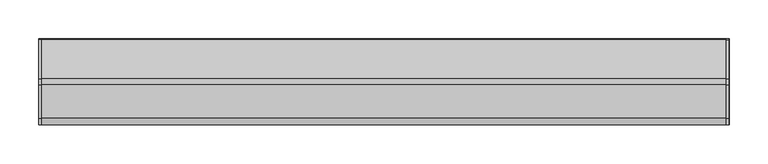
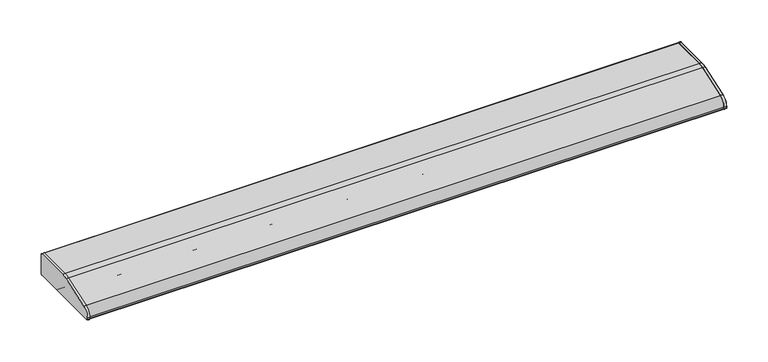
"""IFC4 building model written with IfcOpenShell, lengths in millimetres: light fixture geometry, HermanMiller_SupplementalProducts_G6136_UtilityTaskLight : AO Etho Canvas 42W."""

from ifc_helpers import new_model, si_unit, point, frame, frame_2d, origin, place, context, project, spatial, polyline, circle_curve, trimmed, segment, composite_curve, outline, extrude, source, transform, mapped, element, save


def light_fixture_24898320(model_context):
    return source(origin(), model_context, "Body", "SweptSolid", [
        extrude(outline(composite_curve([segment(polyline([(53.975, 1412.74546), (-53.975, 1412.74546)]), True, "CONTINUOUS"), segment(trimmed(circle_curve(frame_2d((-53.975, 1414.33296)), 1.5875), [point((-53.975, 1412.74546))], [point((-55.5625, 1414.33296))], False, "CARTESIAN"), True, "CONTINUOUS"), segment(polyline([(-55.5625, 1414.33296), (-55.5625, 1416.3740314)]), True, "CONTINUOUS"), segment(trimmed(circle_curve(frame_2d((-42.8625, 1416.3740314)), 12.7), [point((-55.5625, 1416.3740314))], [point((-46.9814189, 1428.3875449))], False, "CARTESIAN"), True, "CONTINUOUS"), segment(polyline([(-46.9814189, 1428.3875449), (-4.0045045, 1443.122487)]), True, "CONTINUOUS"), segment(trimmed(circle_curve(frame_2d((4.2333333, 1419.09546)), 25.4), [point((-4.0045045, 1443.122487))], [point((4.2333333, 1444.49546))], False, "CARTESIAN"), True, "CONTINUOUS"), segment(polyline([(4.2333333, 1444.49546), (53.975, 1444.49546)]), True, "CONTINUOUS"), segment(trimmed(circle_curve(frame_2d((53.975, 1442.90796)), 1.5875), [point((53.975, 1444.49546))], [point((55.5625, 1442.90796))], False, "CARTESIAN"), True, "CONTINUOUS"), segment(polyline([(55.5625, 1442.90796), (55.5625, 1414.33296)]), True, "CONTINUOUS"), segment(trimmed(circle_curve(frame_2d((53.975, 1414.33296)), 1.5875), [point((55.5625, 1414.33296))], [point((53.975, 1412.74546))], False, "CARTESIAN"), True, "CONTINUOUS")], self_intersect=False)), frame((441.833, 0.0, 0.0), z_axis=(1.0, 0.0, 0.0), x_axis=(0.0, 1.0, 0.0)), (0.0, 0.0, 1.0), 3.175),
        extrude(outline(composite_curve([segment(trimmed(circle_curve(frame_2d((53.975, 1442.90796)), 1.5875), [point((53.975, 1444.49546))], [point((55.5625, 1442.90796))], False, "CARTESIAN"), True, "CONTINUOUS"), segment(polyline([(55.5625, 1442.90796), (55.5625, 1414.33296)]), True, "CONTINUOUS"), segment(trimmed(circle_curve(frame_2d((53.975, 1414.33296)), 1.5875), [point((55.5625, 1414.33296))], [point((53.975, 1412.74546))], False, "CARTESIAN"), True, "CONTINUOUS"), segment(polyline([(53.975, 1412.74546), (-53.975, 1412.74546)]), True, "CONTINUOUS"), segment(trimmed(circle_curve(frame_2d((-53.975, 1414.33296)), 1.5875), [point((-53.975, 1412.74546))], [point((-55.5625, 1414.33296))], False, "CARTESIAN"), True, "CONTINUOUS"), segment(polyline([(-55.5625, 1414.33296), (-55.5625, 1416.3740314)]), True, "CONTINUOUS"), segment(trimmed(circle_curve(frame_2d((-42.8625, 1416.3740314)), 12.7), [point((-55.5625, 1416.3740314))], [point((-46.9814189, 1428.3875449))], False, "CARTESIAN"), True, "CONTINUOUS"), segment(polyline([(-46.9814189, 1428.3875449), (-4.0045045, 1443.122487)]), True, "CONTINUOUS"), segment(trimmed(circle_curve(frame_2d((4.2333333, 1419.09546)), 25.4), [point((-4.0045045, 1443.122487))], [point((4.2333333, 1444.49546))], False, "CARTESIAN"), True, "CONTINUOUS"), segment(polyline([(4.2333333, 1444.49546), (53.975, 1444.49546)]), True, "CONTINUOUS")], self_intersect=False)), frame((-445.008, 0.0, 0.0), z_axis=(1.0, 0.0, 0.0), x_axis=(0.0, 1.0, 0.0)), (0.0, 0.0, 1.0), 3.175),
        extrude(outline(composite_curve([segment(polyline([(55.5625, 1442.90796), (55.5625, 1414.33296)]), True, "CONTINUOUS"), segment(trimmed(circle_curve(frame_2d((53.975, 1414.33296)), 1.5875), [point((55.5625, 1414.33296))], [point((53.975, 1412.74546))], False, "CARTESIAN"), True, "CONTINUOUS"), segment(polyline([(53.975, 1412.74546), (19.05, 1412.74546)]), True, "CONTINUOUS"), segment(trimmed(circle_curve(frame_2d((19.05, 1414.33296)), 1.5875), [point((19.05, 1412.74546))], [point((17.4625, 1414.33296))], False, "CARTESIAN"), True, "CONTINUOUS"), segment(polyline([(17.4625, 1414.33296), (17.4625, 1442.90796), (4.4979167, 1442.90796)]), True, "CONTINUOUS"), segment(trimmed(circle_curve(frame_2d((4.4979167, 1417.50796)), 25.4), [point((4.4979167, 1442.90796))], [point((-3.7399212, 1441.534987))], True, "CARTESIAN"), True, "CONTINUOUS"), segment(polyline([(-3.7399212, 1441.534987), (-37.4564189, 1429.9750449)]), True, "CONTINUOUS"), segment(trimmed(circle_curve(frame_2d((-33.3375, 1417.9615314)), 12.7), [point((-37.4564189, 1429.9750449))], [point((-46.0375, 1417.9615314))], True, "CARTESIAN"), True, "CONTINUOUS"), segment(polyline([(-46.0375, 1417.9615314), (-46.0375, 1414.33296)]), True, "CONTINUOUS"), segment(trimmed(circle_curve(frame_2d((-47.625, 1414.33296)), 1.5875), [point((-46.0375, 1414.33296))], [point((-47.625, 1412.74546))], False, "CARTESIAN"), True, "CONTINUOUS"), segment(polyline([(-47.625, 1412.74546), (-53.975, 1412.74546)]), True, "CONTINUOUS"), segment(trimmed(circle_curve(frame_2d((-53.975, 1414.33296)), 1.5875), [point((-53.975, 1412.74546))], [point((-55.5625, 1414.33296))], False, "CARTESIAN"), True, "CONTINUOUS"), segment(polyline([(-55.5625, 1414.33296), (-55.5625, 1416.3740314)]), True, "CONTINUOUS"), segment(trimmed(circle_curve(frame_2d((-42.8625, 1416.3740314)), 12.7), [point((-55.5625, 1416.3740314))], [point((-46.9814189, 1428.3875449))], False, "CARTESIAN"), True, "CONTINUOUS"), segment(polyline([(-46.9814189, 1428.3875449), (-4.0045045, 1443.122487)]), True, "CONTINUOUS"), segment(trimmed(circle_curve(frame_2d((4.2333333, 1419.09546)), 25.4), [point((-4.0045045, 1443.122487))], [point((4.2333333, 1444.49546))], False, "CARTESIAN"), True, "CONTINUOUS"), segment(polyline([(4.2333333, 1444.49546), (53.975, 1444.49546)]), True, "CONTINUOUS"), segment(trimmed(circle_curve(frame_2d((53.975, 1442.90796)), 1.5875), [point((53.975, 1444.49546))], [point((55.5625, 1442.90796))], False, "CARTESIAN"), True, "CONTINUOUS")], self_intersect=False)), frame((-445.008, 0.0, 0.0), z_axis=(1.0, 0.0, 0.0), x_axis=(0.0, 1.0, 0.0)), (0.0, 0.0, 1.0), 890.4820011),
        extrude(outline(composite_curve([segment(trimmed(circle_curve(frame_2d((1.5875, 1430.20796)), 9.525), [point((-7.9375, 1430.20796))], [point((11.1125, 1430.20796))], False, "CARTESIAN"), True, "CONTINUOUS"), segment(trimmed(circle_curve(frame_2d((1.5875, 1430.20796)), 9.525), [point((11.1125, 1430.20796))], [point((-7.9375, 1430.20796))], False, "CARTESIAN"), True, "CONTINUOUS")], self_intersect=False)), frame((419.608, 0.0, 0.0), z_axis=(1.0, 0.0, 0.0), x_axis=(0.0, 1.0, 0.0)), (0.0, 0.0, 1.0), 12.7),
        extrude(outline(composite_curve([segment(trimmed(circle_curve(frame_2d((1.5875, 1430.20796)), 9.525), [point((-7.9375, 1430.20796))], [point((11.1125, 1430.20796))], False, "CARTESIAN"), True, "CONTINUOUS"), segment(trimmed(circle_curve(frame_2d((1.5875, 1430.20796)), 9.525), [point((11.1125, 1430.20796))], [point((-7.9375, 1430.20796))], False, "CARTESIAN"), True, "CONTINUOUS")], self_intersect=False)), frame((-432.308, 0.0, 0.0), z_axis=(1.0, 0.0, 0.0), x_axis=(0.0, 1.0, 0.0)), (0.0, 0.0, 1.0), 12.7),
        extrude(outline(composite_curve([segment(trimmed(circle_curve(frame_2d((1.5875, 1430.20796)), 9.525), [point((-7.9375, 1430.20796))], [point((11.1125, 1430.20796))], False, "CARTESIAN"), True, "CONTINUOUS"), segment(trimmed(circle_curve(frame_2d((1.5875, 1430.20796)), 9.525), [point((11.1125, 1430.20796))], [point((-7.9375, 1430.20796))], False, "CARTESIAN"), True, "CONTINUOUS")], self_intersect=False)), frame((-419.608, 0.0, 0.0), z_axis=(1.0, 0.0, 0.0), x_axis=(0.0, 1.0, 0.0)), (0.0, 0.0, 1.0), 839.216),
        extrude(outline(composite_curve([segment(polyline([(17.4625, 1415.92046), (-46.0375, 1415.92046), (-46.0375, 1417.9615314)]), True, "CONTINUOUS"), segment(trimmed(circle_curve(frame_2d((-33.3375, 1417.9615314)), 12.7), [point((-46.0375, 1417.9615314))], [point((-37.4564189, 1429.9750449))], False, "CARTESIAN"), True, "CONTINUOUS"), segment(polyline([(-37.4564189, 1429.9750449), (-3.7399212, 1441.534987)]), True, "CONTINUOUS"), segment(trimmed(circle_curve(frame_2d((4.4979167, 1417.50796)), 25.4), [point((-3.7399212, 1441.534987))], [point((4.4979167, 1442.90796))], False, "CARTESIAN"), True, "CONTINUOUS"), segment(polyline([(4.4979167, 1442.90796), (17.4625, 1442.90796), (17.4625, 1415.92046)]), True, "CONTINUOUS")], self_intersect=False)), frame((432.308, 0.0, 0.0), z_axis=(1.0, 0.0, 0.0), x_axis=(0.0, 1.0, 0.0)), (0.0, 0.0, 1.0), 9.525),
        extrude(outline(composite_curve([segment(polyline([(17.4625, 1415.92046), (-46.0375, 1415.92046), (-46.0375, 1417.9615314)]), True, "CONTINUOUS"), segment(trimmed(circle_curve(frame_2d((-33.3375, 1417.9615314)), 12.7), [point((-46.0375, 1417.9615314))], [point((-37.4564189, 1429.9750449))], False, "CARTESIAN"), True, "CONTINUOUS"), segment(polyline([(-37.4564189, 1429.9750449), (-3.7399212, 1441.534987)]), True, "CONTINUOUS"), segment(trimmed(circle_curve(frame_2d((4.4979167, 1417.50796)), 25.4), [point((-3.7399212, 1441.534987))], [point((4.4979167, 1442.90796))], False, "CARTESIAN"), True, "CONTINUOUS"), segment(polyline([(4.4979167, 1442.90796), (17.4625, 1442.90796), (17.4625, 1415.92046)]), True, "CONTINUOUS")], self_intersect=False)), frame((-441.833, 0.0, 0.0), z_axis=(1.0, 0.0, 0.0), x_axis=(0.0, 1.0, 0.0)), (0.0, 0.0, 1.0), 9.525),
    ])


if __name__ == "__main__":
    model = new_model("IFC4")
    model_context = context("Model", 3, world=origin())
    ifc_project = project(units=[si_unit("LENGTHUNIT", "METRE", prefix="MILLI")], contexts=[model_context])
    site = spatial("IfcSite", under=ifc_project)
    building = spatial("IfcBuilding", under=site)
    placement = place(None, origin())
    light_fixture_shape = light_fixture_24898320(model_context)
    element("IfcLightFixture", 1, ObjectType="HermanMiller_SupplementalProducts_G6136_UtilityTaskLight : AO Etho Canvas 42W", at=placement, inside=building, context=model_context, shape_type="MappedRepresentation", body=[
        mapped(light_fixture_shape, transform((0.0, 0.0, 0.0), x_axis=(1.0, 0.0, 0.0), y_axis=(0.0, 1.0, 0.0), z_axis=(0.0, 0.0, 1.0))),
    ])
    save(model, "model.ifc")
